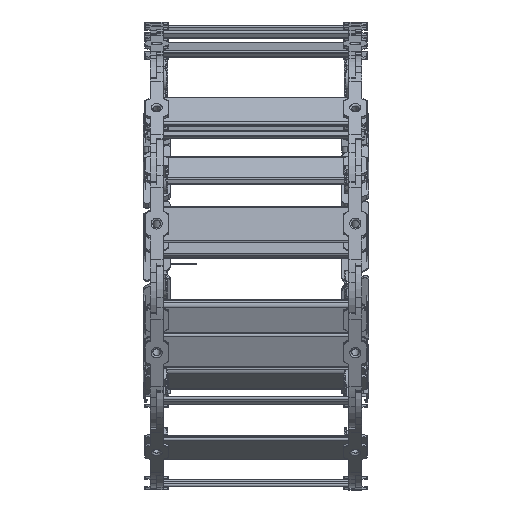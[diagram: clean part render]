
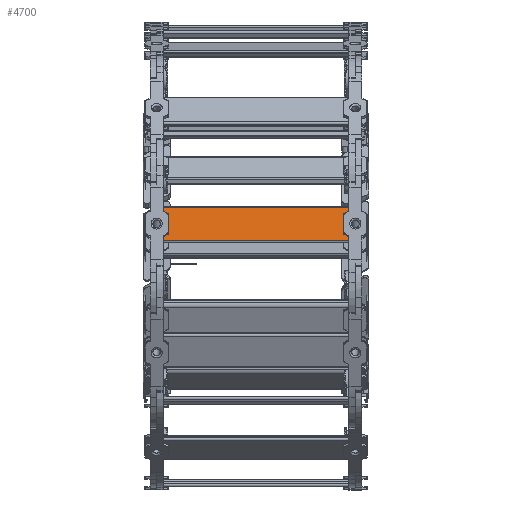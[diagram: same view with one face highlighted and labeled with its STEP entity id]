
A CAD part, front view. The second image highlights one B-rep face of the part: STEP entity #4700.
In plain terms, the highlighted planar face has unit normal (0, -0.984, 0.178) as drawn and (0, 0, -1) by its records, which use the part's own axes.
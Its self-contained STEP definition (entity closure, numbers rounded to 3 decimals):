
#4542=CARTESIAN_POINT('',(214.,75.459,-48.5));
#4543=VERTEX_POINT('',#4542);
#4551=CARTESIAN_POINT('',(14.,75.459,-48.5));
#4552=VERTEX_POINT('',#4551);
#4553=CARTESIAN_POINT('',(14.,75.459,-48.5));
#4554=DIRECTION('',(1.0,0.0,0.0));
#4555=VECTOR('',#4554,200.0);
#4556=LINE('',#4553,#4555);
#4557=EDGE_CURVE('',#4552,#4543,#4556,.T.);
#4570=CARTESIAN_POINT('',(14.,54.499,-48.5));
#4571=DIRECTION('',(0.,0.,-1.0));
#4572=DIRECTION('',(-1.0,0.0,0.0));
#4573=AXIS2_PLACEMENT_3D('',#4570,#4571,#4572);
#4574=PLANE('',#4573);
#4575=CARTESIAN_POINT('',(14.,70.887,-48.5));
#4576=VERTEX_POINT('',#4575);
#4577=CARTESIAN_POINT('',(18.75,68.144,-48.5));
#4578=VERTEX_POINT('',#4577);
#4579=CARTESIAN_POINT('',(14.,70.887,-48.5));
#4580=DIRECTION('',(0.866,-0.5,0.));
#4581=VECTOR('',#4580,5.485);
#4582=LINE('',#4579,#4581);
#4583=EDGE_CURVE('',#4576,#4578,#4582,.T.);
#4584=ORIENTED_EDGE('',*,*,#4583,.F.);
#4585=CARTESIAN_POINT('',(14.,75.459,-48.5));
#4586=DIRECTION('',(0.0,-1.0,0.0));
#4587=VECTOR('',#4586,4.572);
#4588=LINE('',#4585,#4587);
#4589=EDGE_CURVE('',#4552,#4576,#4588,.T.);
#4590=ORIENTED_EDGE('',*,*,#4589,.F.);
#4591=ORIENTED_EDGE('',*,*,#4557,.T.);
#4592=CARTESIAN_POINT('',(214.,70.887,-48.5));
#4593=VERTEX_POINT('',#4592);
#4594=CARTESIAN_POINT('',(214.,70.887,-48.5));
#4595=DIRECTION('',(0.,1.0,0.));
#4596=VECTOR('',#4595,4.572);
#4597=LINE('',#4594,#4596);
#4598=EDGE_CURVE('',#4593,#4543,#4597,.T.);
#4599=ORIENTED_EDGE('',*,*,#4598,.F.);
#4600=CARTESIAN_POINT('',(209.25,68.144,-48.5));
#4601=VERTEX_POINT('',#4600);
#4602=CARTESIAN_POINT('',(209.25,68.144,-48.5));
#4603=DIRECTION('',(0.866,0.5,0.));
#4604=VECTOR('',#4603,5.485);
#4605=LINE('',#4602,#4604);
#4606=EDGE_CURVE('',#4601,#4593,#4605,.T.);
#4607=ORIENTED_EDGE('',*,*,#4606,.F.);
#4608=CARTESIAN_POINT('',(208.5,66.845,-48.5));
#4609=VERTEX_POINT('',#4608);
#4610=CARTESIAN_POINT('',(210.,66.845,-48.5));
#4611=DIRECTION('',(0.,0.,-1.));
#4612=DIRECTION('',(-0.866,0.5,0.));
#4613=AXIS2_PLACEMENT_3D('',#4610,#4611,#4612);
#4614=CIRCLE('',#4613,1.5);
#4615=EDGE_CURVE('',#4609,#4601,#4614,.T.);
#4616=ORIENTED_EDGE('',*,*,#4615,.F.);
#4617=CARTESIAN_POINT('',(208.5,48.155,-48.5));
#4618=VERTEX_POINT('',#4617);
#4619=CARTESIAN_POINT('',(208.5,48.155,-48.5));
#4620=DIRECTION('',(0.0,1.0,0.));
#4621=VECTOR('',#4620,18.691);
#4622=LINE('',#4619,#4621);
#4623=EDGE_CURVE('',#4618,#4609,#4622,.T.);
#4624=ORIENTED_EDGE('',*,*,#4623,.F.);
#4625=CARTESIAN_POINT('',(209.25,46.856,-48.5));
#4626=VERTEX_POINT('',#4625);
#4627=CARTESIAN_POINT('',(210.,48.155,-48.5));
#4628=DIRECTION('',(0.,0.,-1.));
#4629=DIRECTION('',(-0.866,-0.5,0.));
#4630=AXIS2_PLACEMENT_3D('',#4627,#4628,#4629);
#4631=CIRCLE('',#4630,1.5);
#4632=EDGE_CURVE('',#4626,#4618,#4631,.T.);
#4633=ORIENTED_EDGE('',*,*,#4632,.F.);
#4634=CARTESIAN_POINT('',(214.,44.113,-48.5));
#4635=VERTEX_POINT('',#4634);
#4636=CARTESIAN_POINT('',(214.,44.113,-48.5));
#4637=DIRECTION('',(-0.866,0.5,0.));
#4638=VECTOR('',#4637,5.485);
#4639=LINE('',#4636,#4638);
#4640=EDGE_CURVE('',#4635,#4626,#4639,.T.);
#4641=ORIENTED_EDGE('',*,*,#4640,.F.);
#4642=CARTESIAN_POINT('',(214.,39.541,-48.5));
#4643=VERTEX_POINT('',#4642);
#4644=CARTESIAN_POINT('',(214.,39.541,-48.5));
#4645=DIRECTION('',(0.,1.0,0.));
#4646=VECTOR('',#4645,4.572);
#4647=LINE('',#4644,#4646);
#4648=EDGE_CURVE('',#4643,#4635,#4647,.T.);
#4649=ORIENTED_EDGE('',*,*,#4648,.F.);
#4650=CARTESIAN_POINT('',(14.,39.541,-48.5));
#4651=VERTEX_POINT('',#4650);
#4652=CARTESIAN_POINT('',(14.,39.541,-48.5));
#4653=DIRECTION('',(1.0,0.0,0.0));
#4654=VECTOR('',#4653,200.0);
#4655=LINE('',#4652,#4654);
#4656=EDGE_CURVE('',#4651,#4643,#4655,.T.);
#4657=ORIENTED_EDGE('',*,*,#4656,.F.);
#4658=CARTESIAN_POINT('',(14.,44.113,-48.5));
#4659=VERTEX_POINT('',#4658);
#4660=CARTESIAN_POINT('',(14.,44.113,-48.5));
#4661=DIRECTION('',(0.,-1.0,0.));
#4662=VECTOR('',#4661,4.572);
#4663=LINE('',#4660,#4662);
#4664=EDGE_CURVE('',#4659,#4651,#4663,.T.);
#4665=ORIENTED_EDGE('',*,*,#4664,.F.);
#4666=CARTESIAN_POINT('',(18.75,46.856,-48.5));
#4667=VERTEX_POINT('',#4666);
#4668=CARTESIAN_POINT('',(18.75,46.856,-48.5));
#4669=DIRECTION('',(-0.866,-0.5,0.));
#4670=VECTOR('',#4669,5.485);
#4671=LINE('',#4668,#4670);
#4672=EDGE_CURVE('',#4667,#4659,#4671,.T.);
#4673=ORIENTED_EDGE('',*,*,#4672,.F.);
#4674=CARTESIAN_POINT('',(19.5,48.155,-48.5));
#4675=VERTEX_POINT('',#4674);
#4676=CARTESIAN_POINT('',(18.,48.155,-48.5));
#4677=DIRECTION('',(0.,0.,-1.0));
#4678=DIRECTION('',(0.866,-0.5,0.));
#4679=AXIS2_PLACEMENT_3D('',#4676,#4677,#4678);
#4680=CIRCLE('',#4679,1.5);
#4681=EDGE_CURVE('',#4675,#4667,#4680,.T.);
#4682=ORIENTED_EDGE('',*,*,#4681,.F.);
#4683=CARTESIAN_POINT('',(19.5,66.845,-48.5));
#4684=VERTEX_POINT('',#4683);
#4685=CARTESIAN_POINT('',(19.5,66.845,-48.5));
#4686=DIRECTION('',(0.,-1.0,0.));
#4687=VECTOR('',#4686,18.691);
#4688=LINE('',#4685,#4687);
#4689=EDGE_CURVE('',#4684,#4675,#4688,.T.);
#4690=ORIENTED_EDGE('',*,*,#4689,.F.);
#4691=CARTESIAN_POINT('',(18.,66.845,-48.5));
#4692=DIRECTION('',(0.,0.,-1.0));
#4693=DIRECTION('',(0.866,0.5,0.));
#4694=AXIS2_PLACEMENT_3D('',#4691,#4692,#4693);
#4695=CIRCLE('',#4694,1.5);
#4696=EDGE_CURVE('',#4578,#4684,#4695,.T.);
#4697=ORIENTED_EDGE('',*,*,#4696,.F.);
#4698=EDGE_LOOP('',(#4584,#4590,#4591,#4599,#4607,#4616,#4624,#4633,#4641,#4649,#4657,#4665,#4673,#4682,#4690,#4697));
#4699=FACE_OUTER_BOUND('',#4698,.T.);
#4700=ADVANCED_FACE('',(#4699),#4574,.T.);
